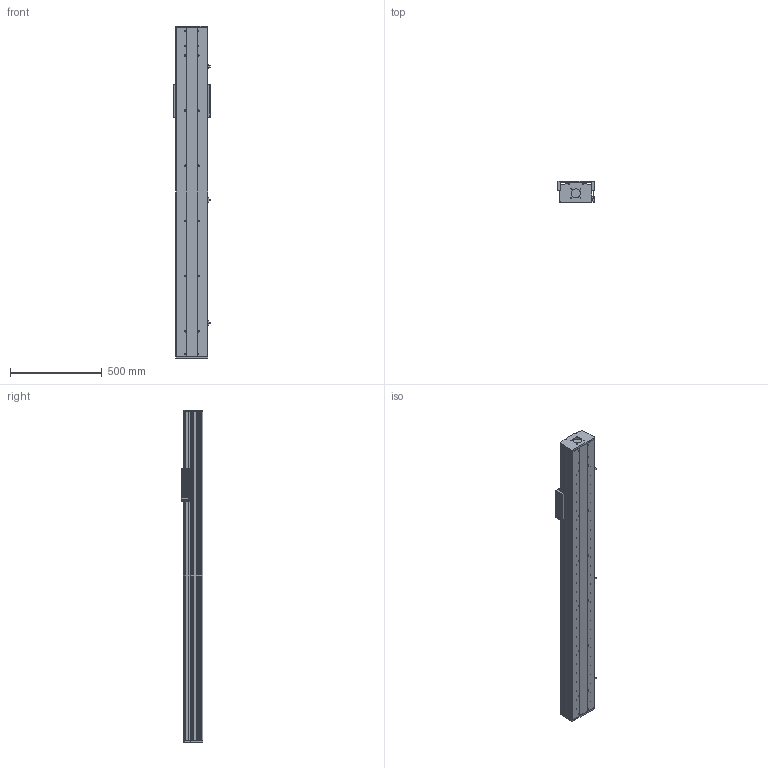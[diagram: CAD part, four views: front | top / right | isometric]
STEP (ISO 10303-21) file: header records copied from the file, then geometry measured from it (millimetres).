
FILE_DESCRIPTION (( 'STEP AP203' ), '1' );
FILE_NAME ('CF175B-C-1450-FW.STEP', '2020-07-15T01:59:13', ( 'Micorosoft' ), ( 'Micorosoft' ), 'SwSTEP 2.0', 'SolidWorks 2016', '' );
FILE_SCHEMA (( 'CONFIG_CONTROL_DESIGN' ));
Length unit declared in the file: millimetre
Products named in the file (12): 75-86-95癹弇羲壽覜茼え; CF-EGH20CA賑輸; 175B珨极嘐隅釱; 嫖萇羲壽; CF175B-C-1450-FW; 175B裔啣-1450; 175-2耜啣; 175B臏倰第-1450; 175-2盓傅釱; EGR20絳寢-1450; CF175-2蹟譫釱; CF175-2賑雄啣
Assembly tree (17 placements, depth 2):
  CF175B-C-1450-FW
    175-2耜啣
    175-2盓傅釱
    CF175-2蹟譫釱
    175B裔啣-1450
    175B臏倰第-1450
    EGR20絳寢-1450  x2
    CF175-2賑雄啣
    75-86-95癹弇羲壽覜茼え
    CF-EGH20CA賑輸  x4
    175B珨极嘐隅釱
    嫖萇羲壽  x3
Bounding box: 201.1 x 116.8 x 1805 mm (x, y, z)
Volume: 12423708.2 mm3; surface area: 3410202.8 mm2
Topology: 23 solids, 23 shells, 1611 faces, 4134 edges, 2748 vertices
Faces by surface type: cylinder 832, plane 773, cone 4, bspline 2
Entity records: 38262 total; most frequent: DIRECTION 6705, CARTESIAN_POINT 6435, ORIENTED_EDGE 6040, EDGE_CURVE 3020, AXIS2_PLACEMENT_3D 2518, VERTEX_POINT 2008, VECTOR 1669, LINE 1669
